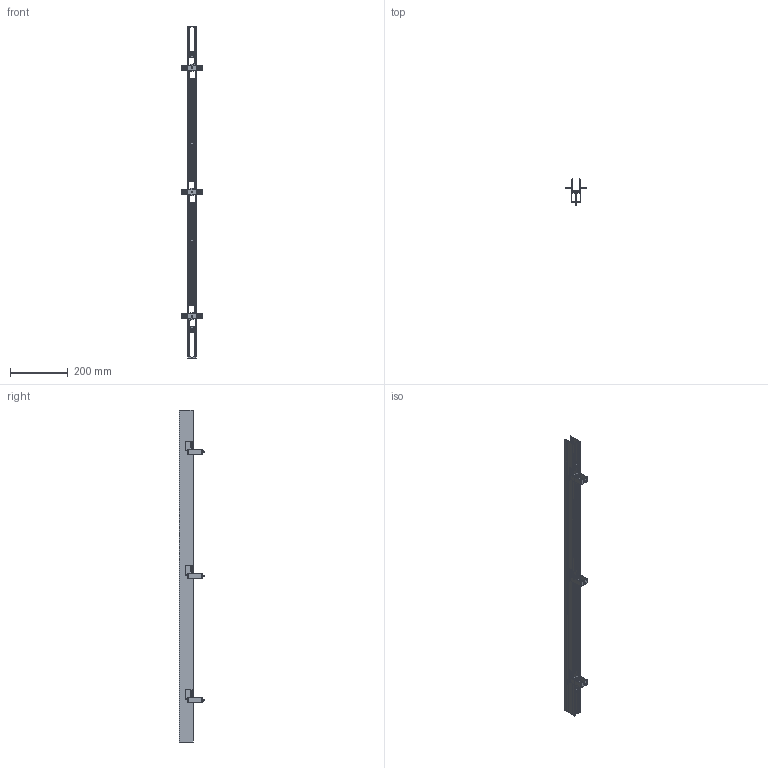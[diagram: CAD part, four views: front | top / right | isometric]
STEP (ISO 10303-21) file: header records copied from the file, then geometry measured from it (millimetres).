
FILE_DESCRIPTION(/* description */ ('Unknown'),/* implementation_level */ '2;1');
FILE_NAME(/* name */ '98368',/* time_stamp */ '2023-02-07T07:42:51-05:00',/* author */ ('Unknown'),/* organization */ ('Unknown'),/* preprocessor_version */ 'ST-DEVELOPER v18.1',/* originating_system */ 'Solid Edge',/* authorisation */ 'Unknown');
FILE_SCHEMA (('AUTOMOTIVE_DESIGN {1 0 10303 214 3 1 1}'));
Length unit declared in the file: millimetre
Products named in the file (9): CONTROCASSA_PER _CARTONGESSO; LED-PRO861; LED-VIT061; LED-RON101; LED-RON006; LED-DAD026; STAFFA+INSERTO; LED-STA310; INSERTO
Assembly tree (18 placements, depth 3):
  CONTROCASSA_PER _CARTONGESSO
    LED-PRO861
    LED-VIT061  x3
    LED-RON101  x3
    LED-RON006  x3
    LED-DAD026  x3
    STAFFA+INSERTO  x3
      LED-STA310
      INSERTO
Bounding box: 69.5 x 89 x 1153 mm (x, y, z)
Volume: 258851.3 mm3; surface area: 311543.8 mm2
Topology: 19 solids, 19 shells, 724 faces, 2122 edges, 1436 vertices
Faces by surface type: cylinder 429, plane 244, cone 33, torus 18
Full cylindrical faces by diameter (mm): 2.8 x162, 3.422 x6, 4 x3, 4.2 x3, 5 x6, 5.9 x3, 6 x3, 6.4 x3, 8 x3, 8.8 x3, 10 x3, 18 x3
Entity records: 16204 total; most frequent: CARTESIAN_POINT 3173, DIRECTION 2624, ORIENTED_EDGE 2542, EDGE_CURVE 1271, AXIS2_PLACEMENT_3D 1002, VERTEX_POINT 899, EDGE_LOOP 670, FACE_BOUND 670
